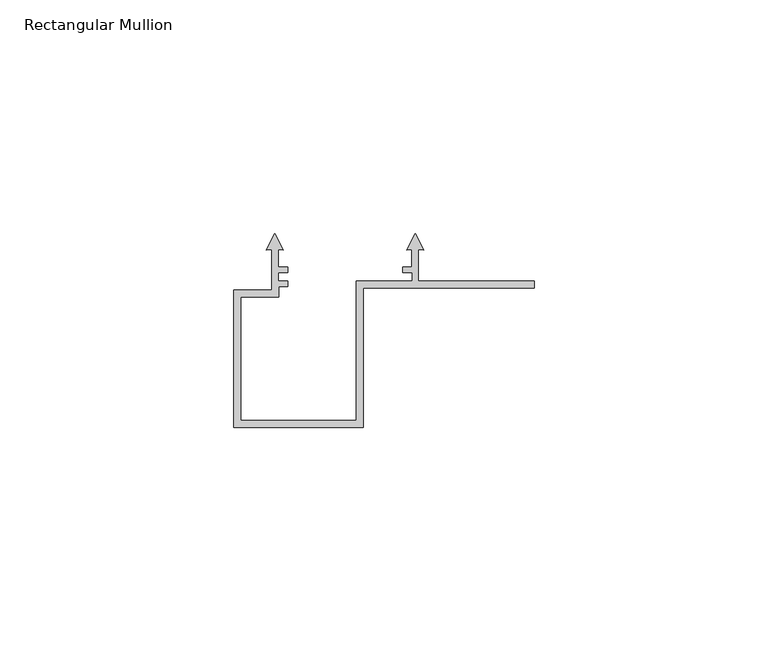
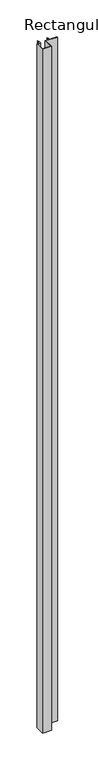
"""IFC4 building model written with IfcOpenShell, lengths in millimetres: member geometry, Rectangular Mullion : Renson_Linarte_LA-B30-01."""

from ifc_helpers import new_model, si_unit, frame, origin, place, context, project, spatial, polyline, outline, extrude, source, transform, mapped, element, save


def rectangular_mullion_f26adc31(model_context):
    return source(origin(), model_context, "Body", "SweptSolid", [
        extrude(outline(polyline([(-36.6500002, -98.1), (-64.3500002, -98.1), (-64.3500002, -68.5995654), (-56.2091809, -68.5995654), (-56.2091809, -60.0038205), (-57.3249174, -60.1014348), (-55.5091808, -56.5378474), (-53.6934442, -60.1014348), (-54.8091807, -60.0038206), (-54.8091807, -63.698351), (-52.8216175, -63.698351), (-52.8216175, -64.9004386), (-54.8, -64.9004386), (-54.8, -66.6999954), (-52.8211027, -66.6999954), (-52.8211027, -67.9015214), (-54.6997126, -67.9015214), (-54.6997126, -70.0997951), (-62.8500002, -70.0997951), (-62.8500002, -96.5999997), (-38.1500002, -96.5999997), (-38.1500002, -66.6999997), (-26.1000012, -66.6999997), (-26.1000012, -64.9008281), (-28.1922643, -64.9008281), (-28.1922643, -63.6999997), (-26.2000002, -63.6999997), (-26.2000002, -60.0038204), (-27.315738, -60.1014348), (-25.5000014, -56.5378474), (-23.6842647, -60.1014348), (-24.8, -60.0038207), (-24.8, -66.7056679), (0.0, -66.7056679), (0.0, -68.2004291), (-36.6500002, -68.2004291), (-36.6500002, -98.1)])), frame((0.0, 0.0, -2250.0), z_axis=(0.0, 0.0, 1.0), x_axis=(1.0, 0.0, 0.0)), (0.0, 0.0, 1.0), 2250.0),
    ])


if __name__ == "__main__":
    model = new_model("IFC4")
    model_context = context("Model", 3, world=origin())
    ifc_project = project(units=[si_unit("LENGTHUNIT", "METRE", prefix="MILLI")], contexts=[model_context])
    site = spatial("IfcSite", under=ifc_project)
    building = spatial("IfcBuilding", under=site)
    placement = place(None, origin())
    rectangular_mullion_shape = rectangular_mullion_f26adc31(model_context)
    element("IfcMember", 1, ObjectType="Rectangular Mullion : Renson_Linarte_LA-B30-01", at=placement, inside=building, context=model_context, shape_type="MappedRepresentation", body=[
        mapped(rectangular_mullion_shape, transform((0.0, 0.0, 0.0), x_axis=(1.0, 0.0, 0.0), y_axis=(0.0, 1.0, 0.0), z_axis=(0.0, 0.0, 1.0))),
    ])
    save(model, "model.ifc")
